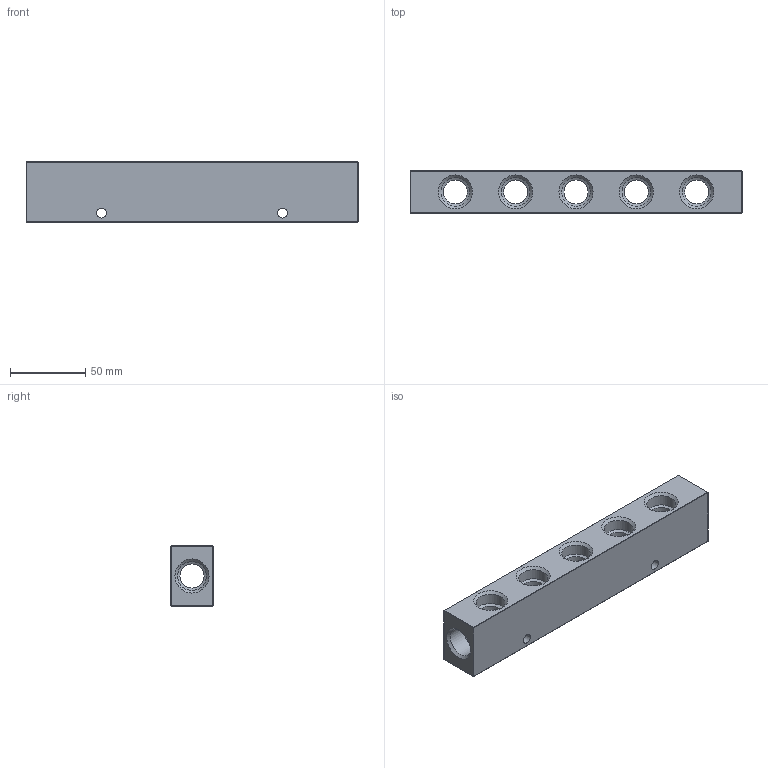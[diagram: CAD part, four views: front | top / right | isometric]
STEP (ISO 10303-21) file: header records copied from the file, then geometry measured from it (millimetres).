
FILE_DESCRIPTION(/* description */ (''),/* implementation_level */ '2;1');
FILE_NAME(/* name */ 'S:\_Tecnico\ArchivioUT\_Disegni3D ingombri\DISEGNI 3D per ingombri\RL\RL52121255.stp',/* time_stamp */ '2020-02-20T14:48:06+01:00',/* author */ ('UfficioTecnico'),/* organization */ (''),/* preprocessor_version */ 'ST-DEVELOPER v18',/* originating_system */ 'Autodesk Inventor 2020',/* authorisation */ '');
FILE_SCHEMA (('AUTOMOTIVE_DESIGN { 1 0 10303 214 3 1 1 }'));
Length unit declared in the file: millimetre
Products named in the file (1): RL51121205
Bounding box: 220 x 28 x 40 mm (x, y, z)
Volume: 161725.5 mm3; surface area: 46722.8 mm2
Topology: 1 solids, 1 shells, 80 faces, 208 edges, 120 vertices
Faces by surface type: cylinder 42, cone 24, sphere 8, plane 6
Full cylindrical faces by diameter (mm): 6.5 x2, 16 x16, 19.172 x12
Entity records: 2547 total; most frequent: DIRECTION 500, ORIENTED_EDGE 416, CARTESIAN_POINT 409, AXIS2_PLACEMENT_3D 211, EDGE_CURVE 208, VERTEX_POINT 120, CIRCLE 100, EDGE_LOOP 96
